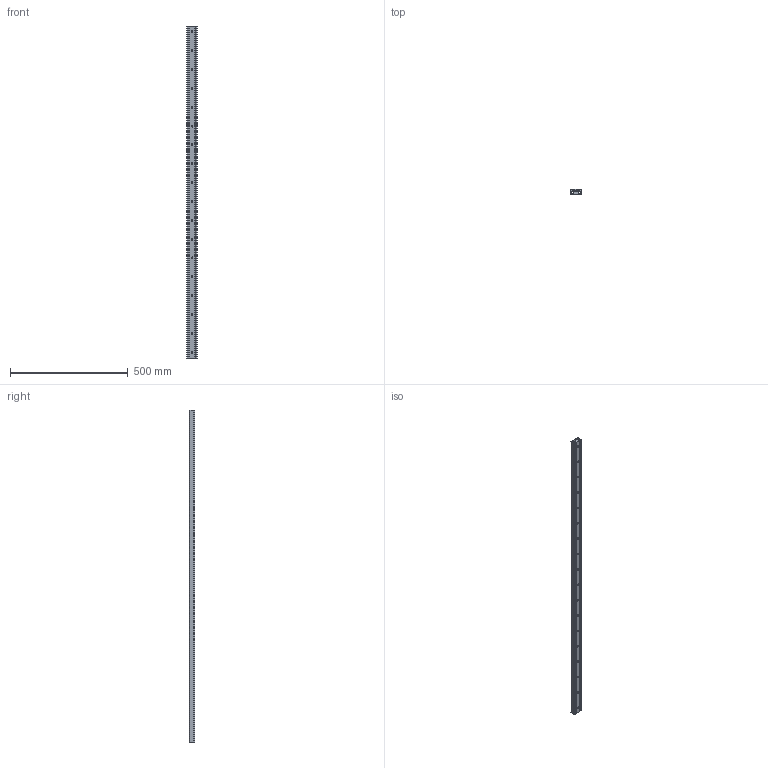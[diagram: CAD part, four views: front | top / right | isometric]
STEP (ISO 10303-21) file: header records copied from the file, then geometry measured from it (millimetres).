
FILE_DESCRIPTION(('STEP AP214'),'1');
FILE_NAME('rail_asn43-1410_00.stp','2017-06-06T10:16:18',('TraceParts'),('TraceParts S.A.'),'Spatial InterOp 3D',' ',' ');
FILE_SCHEMA(('automotive_design'));
Length unit declared in the file: millimetre
Products named in the file (2): rail_asn43-1410_00_1; rail_asn43-1410_00_2
Bounding box: 43 x 22.01 x 1410 mm (x, y, z)
Volume: 858205.3 mm3; surface area: 331932.1 mm2
Topology: 2 solids, 2 shells, 257 faces, 636 edges, 388 vertices
Faces by surface type: cone 108, cylinder 103, plane 46
Entity records: 7794 total; most frequent: DIRECTION 1468, CARTESIAN_POINT 1283, ORIENTED_EDGE 1272, EDGE_CURVE 636, AXIS2_PLACEMENT_3D 573, VERTEX_POINT 388, EDGE_LOOP 334, LINE 322
